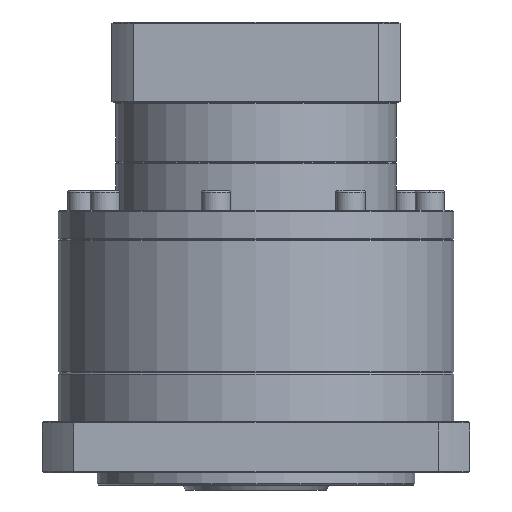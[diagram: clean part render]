
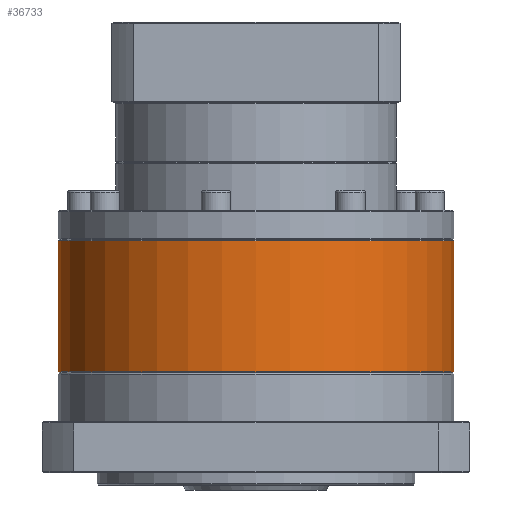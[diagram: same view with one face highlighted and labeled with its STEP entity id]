
A CAD part, front view. The second image highlights one B-rep face of the part: STEP entity #36733.
In plain terms, the highlighted cylindrical face has radius 81 mm (diameter 162 mm), a partial arc.
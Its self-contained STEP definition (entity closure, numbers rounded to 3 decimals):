
#4546 = VERTEX_POINT ( 'NONE', #11173 ) ;
#7111 = CARTESIAN_POINT ( 'NONE',  ( -41.541, 136.749, -51.67 ) ) ;
#7201 = DIRECTION ( 'NONE',  ( 1., 0., 0. ) ) ;
#8844 = CARTESIAN_POINT ( 'NONE',  ( 39.459, 136.749, -52.17 ) ) ;
#11173 = CARTESIAN_POINT ( 'NONE',  ( -41.541, 136.749, -52.17 ) ) ;
#12451 = CARTESIAN_POINT ( 'NONE',  ( 120.459, 136.749, -52.17 ) ) ;
#13534 = VERTEX_POINT ( 'NONE', #12451 ) ;
#16603 = DIRECTION ( 'NONE',  ( 0., 0., -1. ) ) ;
#19805 = VECTOR ( 'NONE', #26970, 1000. ) ;
#21382 = VERTEX_POINT ( 'NONE', #56207 ) ;
#23227 = CIRCLE ( 'NONE', #79289, 81. ) ;
#24948 = CARTESIAN_POINT ( 'NONE',  ( 39.459, 136.749, -52.17 ) ) ;
#25055 = EDGE_CURVE ( 'NONE', #58072, #4546, #23227, .T. ) ;
#25681 = VECTOR ( 'NONE', #30738, 1000. ) ;
#26970 = DIRECTION ( 'NONE',  ( 0., 0., -1. ) ) ;
#29019 = CARTESIAN_POINT ( 'NONE',  ( -41.541, 136.749, -105.67 ) ) ;
#30738 = DIRECTION ( 'NONE',  ( 0., 0., -1. ) ) ;
#36733 = ADVANCED_FACE ( 'NONE', ( #55462 ), #48152, .T. ) ;
#37560 = EDGE_CURVE ( 'NONE', #4546, #41662, #48617, .T. ) ;
#37676 = EDGE_CURVE ( 'NONE', #13534, #58072, #57127, .T. ) ;
#38276 = CARTESIAN_POINT ( 'NONE',  ( 39.459, 136.749, -105.67 ) ) ;
#40375 = LINE ( 'NONE', #49932, #19805 ) ;
#41662 = VERTEX_POINT ( 'NONE', #29019 ) ;
#45644 = EDGE_CURVE ( 'NONE', #13534, #21382, #40375, .T. ) ;
#45766 = ORIENTED_EDGE ( 'NONE', *, *, #37560, .T. ) ;
#48152 = CYLINDRICAL_SURFACE ( 'NONE', #70571, 81. ) ;
#48617 = LINE ( 'NONE', #7111, #25681 ) ;
#49233 = DIRECTION ( 'NONE',  ( 0., 0., -1. ) ) ;
#49932 = CARTESIAN_POINT ( 'NONE',  ( 120.459, 136.749, -51.67 ) ) ;
#50779 = ORIENTED_EDGE ( 'NONE', *, *, #72882, .F. ) ;
#51665 = CIRCLE ( 'NONE', #89335, 81. ) ;
#52428 = EDGE_LOOP ( 'NONE', ( #61151, #96885, #99456, #45766, #50779 ) ) ;
#54108 = DIRECTION ( 'NONE',  ( 0., 0., -1. ) ) ;
#55462 = FACE_OUTER_BOUND ( 'NONE', #52428, .T. ) ;
#56207 = CARTESIAN_POINT ( 'NONE',  ( 120.459, 136.749, -105.67 ) ) ;
#57127 = CIRCLE ( 'NONE', #81159, 81. ) ;
#57739 = CARTESIAN_POINT ( 'NONE',  ( 39.459, 55.749, -52.17 ) ) ;
#58072 = VERTEX_POINT ( 'NONE', #57739 ) ;
#61151 = ORIENTED_EDGE ( 'NONE', *, *, #45644, .F. ) ;
#70571 = AXIS2_PLACEMENT_3D ( 'NONE', #96739, #87932, #80793 ) ;
#72882 = EDGE_CURVE ( 'NONE', #21382, #41662, #51665, .T. ) ;
#78973 = DIRECTION ( 'NONE',  ( -1., 0., 0. ) ) ;
#79289 = AXIS2_PLACEMENT_3D ( 'NONE', #8844, #16603, #78973 ) ;
#80793 = DIRECTION ( 'NONE',  ( -1., 0., 0. ) ) ;
#81159 = AXIS2_PLACEMENT_3D ( 'NONE', #24948, #49233, #95129 ) ;
#87932 = DIRECTION ( 'NONE',  ( 0., 0., -1. ) ) ;
#89335 = AXIS2_PLACEMENT_3D ( 'NONE', #38276, #54108, #7201 ) ;
#95129 = DIRECTION ( 'NONE',  ( -1., 0., 0. ) ) ;
#96739 = CARTESIAN_POINT ( 'NONE',  ( 39.459, 136.749, -51.67 ) ) ;
#96885 = ORIENTED_EDGE ( 'NONE', *, *, #37676, .T. ) ;
#99456 = ORIENTED_EDGE ( 'NONE', *, *, #25055, .T. ) ;
